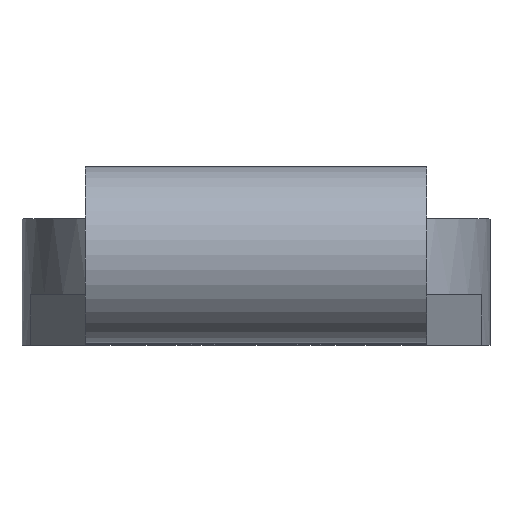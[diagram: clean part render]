
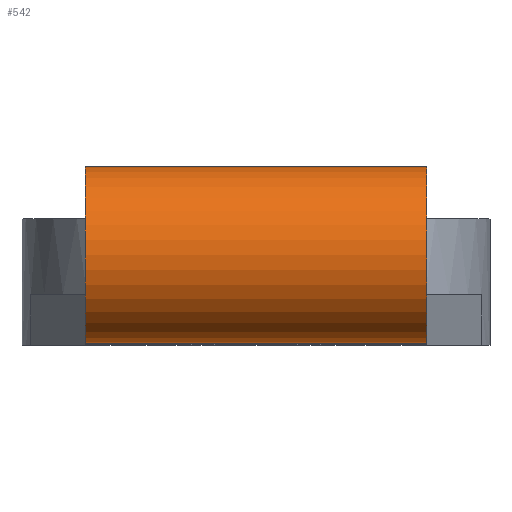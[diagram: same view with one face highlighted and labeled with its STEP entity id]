
A CAD part, top view. The second image highlights one B-rep face of the part: STEP entity #542.
In plain terms, the highlighted cylindrical face has radius 11.113 mm (diameter 22.225 mm), a partial arc.
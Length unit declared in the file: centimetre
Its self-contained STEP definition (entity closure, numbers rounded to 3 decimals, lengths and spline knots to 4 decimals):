
#199=CYLINDRICAL_SURFACE('',#1517,1.1113);
#231=VERTEX_POINT('',#1976);
#232=VERTEX_POINT('',#1977);
#235=VERTEX_POINT('',#1985);
#236=VERTEX_POINT('',#1986);
#286=EDGE_CURVE('',#231,#232,#891,.T.);
#290=EDGE_CURVE('',#235,#236,#892,.T.);
#291=EDGE_CURVE('',#236,#231,#665,.T.);
#292=EDGE_CURVE('',#232,#235,#666,.T.);
#383=ORIENTED_EDGE('',*,*,#290,.T.);
#384=ORIENTED_EDGE('',*,*,#291,.T.);
#385=ORIENTED_EDGE('',*,*,#286,.T.);
#386=ORIENTED_EDGE('',*,*,#292,.T.);
#470=EDGE_LOOP('',(#383,#384,#385,#386));
#509=FACE_BOUND('',#470,.T.);
#542=ADVANCED_FACE('',(#509),#199,.T.);
#665=LINE('',#1987,#1616);
#666=LINE('',#1988,#1617);
#891=CIRCLE('',#1516,1.1113);
#892=CIRCLE('',#1518,1.1113);
#1516=AXIS2_PLACEMENT_3D('',#1975,#2154,#2155);
#1517=AXIS2_PLACEMENT_3D('',#1983,#2159,#2160);
#1518=AXIS2_PLACEMENT_3D('',#1984,#2161,#2162);
#1616=VECTOR('',#2163,1.);
#1617=VECTOR('',#2164,1.);
#1975=CARTESIAN_POINT('',(2.1438,1.1113,-1.1113));
#1976=CARTESIAN_POINT('',(2.1438,0.,-1.1113));
#1977=CARTESIAN_POINT('',(2.1438,2.2225,-1.1113));
#1983=CARTESIAN_POINT('',(1.0719,1.1113,-1.1113));
#1984=CARTESIAN_POINT('',(-2.1438,1.1113,-1.1113));
#1985=CARTESIAN_POINT('',(-2.1438,2.2225,-1.1113));
#1986=CARTESIAN_POINT('',(-2.1438,0.,-1.1113));
#1987=CARTESIAN_POINT('',(1.0719,0.,-1.1113));
#1988=CARTESIAN_POINT('',(1.0719,2.2225,-1.1113));
#2154=DIRECTION('',(-1.,0.,0.));
#2155=DIRECTION('',(0.,0.786,0.786));
#2159=DIRECTION('',(-1.,0.,0.));
#2160=DIRECTION('',(0.,0.786,0.786));
#2161=DIRECTION('',(1.,0.,0.));
#2162=DIRECTION('',(0.,-0.786,0.786));
#2163=DIRECTION('',(1.,0.,0.));
#2164=DIRECTION('',(-1.,0.,0.));
